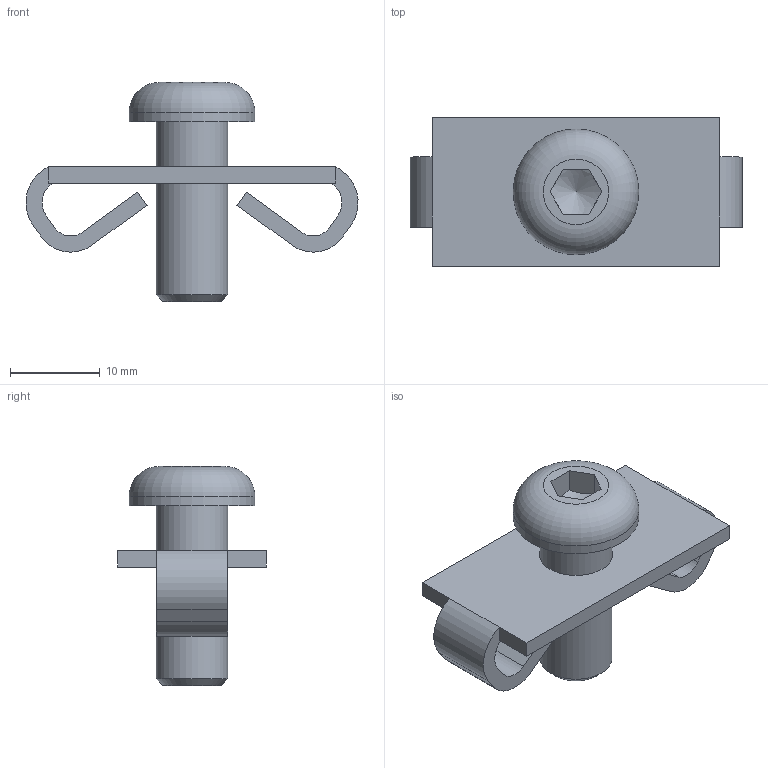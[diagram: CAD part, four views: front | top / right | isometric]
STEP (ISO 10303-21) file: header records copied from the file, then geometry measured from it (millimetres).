
FILE_DESCRIPTION((''),'2;1');
FILE_NAME('E:\catalogue and flyer\Profile catalogue 2015\Accessories JE info\Accessories-JE step file 31MAr16\JE-SJT8-8_4040.stp','2016-04-07T11:39:39',('h029'),(''),'Autodesk Inventor 11','Autodesk Inventor 11','');
FILE_SCHEMA(('AUTOMOTIVE_DESIGN { 1 0 10303 214 1 1 1 1 }'));
Length unit declared in the file: millimetre
Products named in the file (3): JE-SJT8-8_4040;  Part 6  Hexagon socket countersunk and button head screws - Metric series  - Metric M8 x 20
Assembly tree (2 placements, depth 2):
  JE-SJT8-8_4040
    JE-SJT8-8_4040
     Part 6  Hexagon socket countersunk and button head screws - Metric series  - Metric M8 x 20
Bounding box: 36.97 x 16.5 x 24.4 mm (x, y, z)
Volume: 2921.8 mm3; surface area: 2906 mm2
Topology: 2 solids, 2 shells, 45 faces, 114 edges, 74 vertices
Faces by surface type: plane 24, bspline 12, cylinder 6, cone 2, torus 1
Full cylindrical faces by diameter (mm): 8 x1, 14 x1
Entity records: 1442 total; most frequent: CARTESIAN_POINT 346, ORIENTED_EDGE 212, DIRECTION 200, EDGE_CURVE 106, VECTOR 76, LINE 76, VERTEX_POINT 72, AXIS2_PLACEMENT_3D 62
